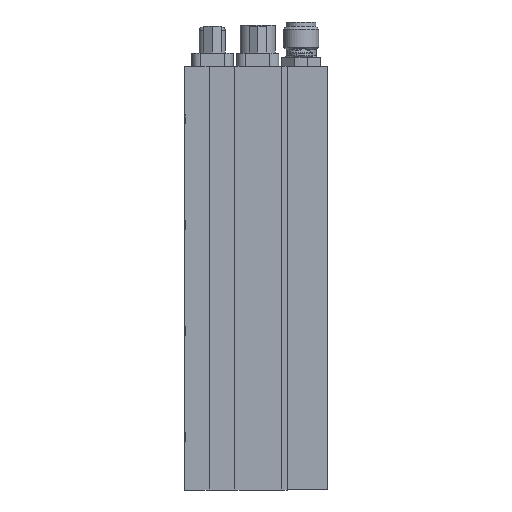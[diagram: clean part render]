
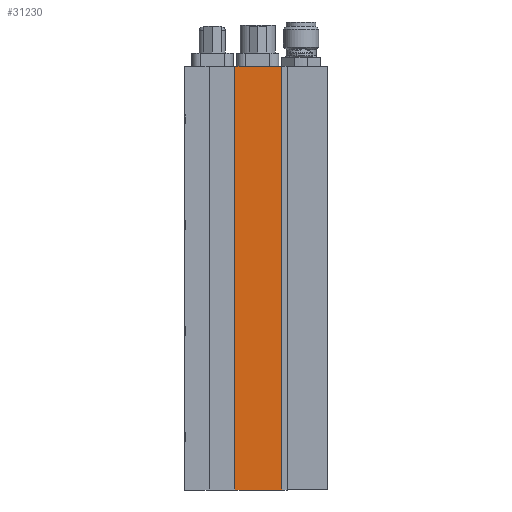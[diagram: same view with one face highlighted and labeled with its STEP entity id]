
A CAD part, left-side view. The second image highlights one B-rep face of the part: STEP entity #31230.
In plain terms, the highlighted planar face has unit normal (-1, 0, 0).
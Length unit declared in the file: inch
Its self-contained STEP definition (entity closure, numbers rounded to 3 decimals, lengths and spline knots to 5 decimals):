
#1614 = FACE_OUTER_BOUND ( 'NONE', #30666, .T. ) ;
#4774 = EDGE_CURVE ( 'NONE', #11872, #11959, #30411, .T. ) ;
#4964 = EDGE_CURVE ( 'NONE', #11872, #6909, #24719, .T. ) ;
#6909 = VERTEX_POINT ( 'NONE', #27437 ) ;
#7854 = ORIENTED_EDGE ( 'NONE', *, *, #32067, .T. ) ;
#7855 = ORIENTED_EDGE ( 'NONE', *, *, #32267, .F. ) ;
#7856 = ORIENTED_EDGE ( 'NONE', *, *, #4964, .F. ) ;
#7857 = ORIENTED_EDGE ( 'NONE', *, *, #4774, .T. ) ;
#8817 = CARTESIAN_POINT ( 'NONE',  ( -1.24135, 0.35071, -1.26272 ) ) ;
#8846 = DIRECTION ( 'NONE',  ( 0., -1., 0. ) ) ;
#10989 = VERTEX_POINT ( 'NONE', #12469 ) ;
#11872 = VERTEX_POINT ( 'NONE', #13491 ) ;
#11959 = VERTEX_POINT ( 'NONE', #15628 ) ;
#12469 = CARTESIAN_POINT ( 'NONE',  ( -1.24135, 0.02071, 1.73728 ) ) ;
#13491 = CARTESIAN_POINT ( 'NONE',  ( -1.24135, 0.35071, -1.26272 ) ) ;
#14846 = CARTESIAN_POINT ( 'NONE',  ( -1.24135, 0.02071, -1.26272 ) ) ;
#14847 = DIRECTION ( 'NONE',  ( 0., 0., 1. ) ) ;
#15397 = CARTESIAN_POINT ( 'NONE',  ( -1.24135, 0.35071, 1.73728 ) ) ;
#15398 = DIRECTION ( 'NONE',  ( 0., -1., 0. ) ) ;
#15628 = CARTESIAN_POINT ( 'NONE',  ( -1.24135, 0.02071, -1.26272 ) ) ;
#19717 = LINE ( 'NONE', #14846, #19723 ) ;
#19723 = VECTOR ( 'NONE', #14847, 39.37008 ) ;
#20160 = LINE ( 'NONE', #15397, #20165 ) ;
#20165 = VECTOR ( 'NONE', #15398, 39.37008 ) ;
#23482 = AXIS2_PLACEMENT_3D ( 'NONE', #26152, #26175, #26177 ) ;
#24595 = CARTESIAN_POINT ( 'NONE',  ( -1.24135, 0.35071, -1.26272 ) ) ;
#24597 = DIRECTION ( 'NONE',  ( 0., 0., 1. ) ) ;
#24719 = LINE ( 'NONE', #24595, #24725 ) ;
#24725 = VECTOR ( 'NONE', #24597, 39.37008 ) ;
#26152 = CARTESIAN_POINT ( 'NONE',  ( -1.24135, 0.35071, -1.26272 ) ) ;
#26171 = PLANE ( 'NONE',  #23482 ) ;
#26175 = DIRECTION ( 'NONE',  ( 1., 0., 0. ) ) ;
#26177 = DIRECTION ( 'NONE',  ( 0., 0., -1. ) ) ;
#27437 = CARTESIAN_POINT ( 'NONE',  ( -1.24135, 0.35071, 1.73728 ) ) ;
#30411 = LINE ( 'NONE', #8817, #30413 ) ;
#30413 = VECTOR ( 'NONE', #8846, 39.37008 ) ;
#30666 = EDGE_LOOP ( 'NONE', ( #7854, #7855, #7856, #7857 ) ) ;
#31230 = ADVANCED_FACE ( 'NONE', ( #1614 ), #26171, .F. ) ;
#32067 = EDGE_CURVE ( 'NONE', #11959, #10989, #19717, .T. ) ;
#32267 = EDGE_CURVE ( 'NONE', #6909, #10989, #20160, .T. ) ;
